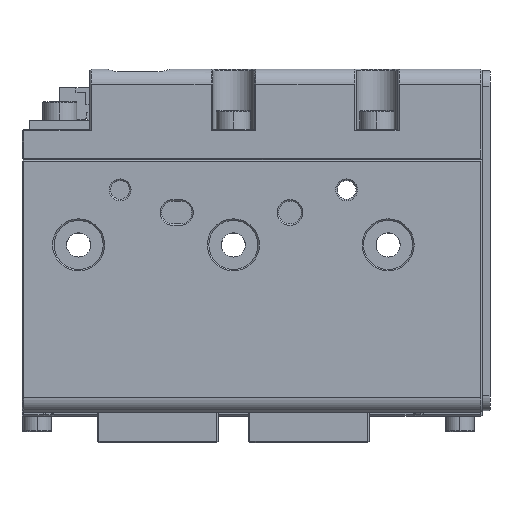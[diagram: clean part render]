
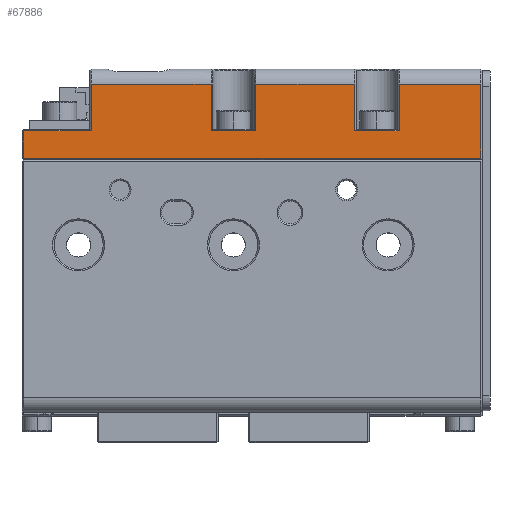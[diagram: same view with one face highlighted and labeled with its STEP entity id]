
A CAD part, top view. The second image highlights one B-rep face of the part: STEP entity #67886.
In plain terms, the highlighted planar face has unit normal (0, 0, 1).
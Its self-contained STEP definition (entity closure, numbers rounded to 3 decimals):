
#345 = DIRECTION ( 'NONE',  ( 0., 1., 0. ) ) ;
#422 = VERTEX_POINT ( 'NONE', #43654 ) ;
#647 = AXIS2_PLACEMENT_3D ( 'NONE', #50695, #76158, #21283 ) ;
#730 = VECTOR ( 'NONE', #3368, 1000. ) ;
#1652 = ORIENTED_EDGE ( 'NONE', *, *, #7619, .T. ) ;
#2977 = CARTESIAN_POINT ( 'NONE',  ( -18.765, 37.449, 10.7 ) ) ;
#3368 = DIRECTION ( 'NONE',  ( 0., -1., 0. ) ) ;
#5330 = VERTEX_POINT ( 'NONE', #21379 ) ;
#5468 = EDGE_CURVE ( 'NONE', #422, #69915, #32412, .T. ) ;
#5750 = ORIENTED_EDGE ( 'NONE', *, *, #59178, .T. ) ;
#5842 = VECTOR ( 'NONE', #57903, 1000. ) ;
#6537 = CARTESIAN_POINT ( 'NONE',  ( -80.565, 31.249, 10.7 ) ) ;
#7211 = LINE ( 'NONE', #61133, #72174 ) ;
#7411 = LINE ( 'NONE', #82773, #60253 ) ;
#7619 = EDGE_CURVE ( 'NONE', #71406, #422, #97352, .T. ) ;
#9812 = VECTOR ( 'NONE', #87075, 1000. ) ;
#9892 = ORIENTED_EDGE ( 'NONE', *, *, #12420, .T. ) ;
#10660 = CARTESIAN_POINT ( 'NONE',  ( -18.765, 37.449, 10.7 ) ) ;
#10884 = ORIENTED_EDGE ( 'NONE', *, *, #99506, .T. ) ;
#12033 = VECTOR ( 'NONE', #56329, 1000. ) ;
#12420 = EDGE_CURVE ( 'NONE', #78086, #5330, #97651, .T. ) ;
#12811 = ORIENTED_EDGE ( 'NONE', *, *, #90032, .T. ) ;
#13251 = EDGE_CURVE ( 'NONE', #25458, #50478, #7211, .T. ) ;
#16949 = ORIENTED_EDGE ( 'NONE', *, *, #13251, .T. ) ;
#16968 = CARTESIAN_POINT ( 'NONE',  ( -19.965, 37.449, 10.7 ) ) ;
#20401 = ORIENTED_EDGE ( 'NONE', *, *, #26374, .T. ) ;
#20670 = LINE ( 'NONE', #27287, #730 ) ;
#20845 = CARTESIAN_POINT ( 'NONE',  ( -49.815, 31.249, 10.7 ) ) ;
#20931 = EDGE_LOOP ( 'NONE', ( #39055, #1652, #89413, #20401, #16949, #5750, #10884, #56416, #12811, #9892, #22442, #23757, #23101, #34778 ) ) ;
#21283 = DIRECTION ( 'NONE',  ( -1., 0., 0. ) ) ;
#21379 = CARTESIAN_POINT ( 'NONE',  ( -30.815, 31.249, 10.7 ) ) ;
#22442 = ORIENTED_EDGE ( 'NONE', *, *, #30224, .T. ) ;
#23101 = ORIENTED_EDGE ( 'NONE', *, *, #32858, .T. ) ;
#23757 = ORIENTED_EDGE ( 'NONE', *, *, #75090, .T. ) ;
#24755 = CARTESIAN_POINT ( 'NONE',  ( -71.565, 31.249, 10.7 ) ) ;
#24927 = VECTOR ( 'NONE', #48945, 1000. ) ;
#25458 = VERTEX_POINT ( 'NONE', #24755 ) ;
#26154 = CARTESIAN_POINT ( 'NONE',  ( -36.715, 37.449, 10.7 ) ) ;
#26374 = EDGE_CURVE ( 'NONE', #69915, #25458, #20670, .T. ) ;
#26787 = DIRECTION ( 'NONE',  ( -1., 0., 0. ) ) ;
#27287 = CARTESIAN_POINT ( 'NONE',  ( -71.565, 27.449, 10.7 ) ) ;
#27599 = VECTOR ( 'NONE', #78967, 1000. ) ;
#29702 = DIRECTION ( 'NONE',  ( 0., -1., 0. ) ) ;
#30224 = EDGE_CURVE ( 'NONE', #5330, #52359, #34343, .T. ) ;
#30250 = CARTESIAN_POINT ( 'NONE',  ( -36.715, 31.249, 10.7 ) ) ;
#31991 = CARTESIAN_POINT ( 'NONE',  ( -80.565, 27.449, 10.7 ) ) ;
#32412 = LINE ( 'NONE', #96058, #51488 ) ;
#32449 = VECTOR ( 'NONE', #26787, 1000. ) ;
#32858 = EDGE_CURVE ( 'NONE', #64526, #52353, #72669, .T. ) ;
#33386 = LINE ( 'NONE', #64447, #47620 ) ;
#33759 = VERTEX_POINT ( 'NONE', #87458 ) ;
#34343 = LINE ( 'NONE', #48070, #32449 ) ;
#34778 = ORIENTED_EDGE ( 'NONE', *, *, #88000, .T. ) ;
#38469 = CARTESIAN_POINT ( 'NONE',  ( -80.565, 27.649, 10.7 ) ) ;
#39055 = ORIENTED_EDGE ( 'NONE', *, *, #57255, .T. ) ;
#42002 = CARTESIAN_POINT ( 'NONE',  ( -19.965, 37.449, 10.7 ) ) ;
#42616 = LINE ( 'NONE', #10660, #5842 ) ;
#42637 = CARTESIAN_POINT ( 'NONE',  ( -30.815, 27.449, 10.7 ) ) ;
#43654 = CARTESIAN_POINT ( 'NONE',  ( -55.715, 37.449, 10.7 ) ) ;
#44437 = DIRECTION ( 'NONE',  ( 0., -1., 0. ) ) ;
#46119 = CARTESIAN_POINT ( 'NONE',  ( -55.715, 31.249, 10.7 ) ) ;
#46486 = LINE ( 'NONE', #68410, #86776 ) ;
#47620 = VECTOR ( 'NONE', #345, 1000. ) ;
#48070 = CARTESIAN_POINT ( 'NONE',  ( -18.765, 31.249, 10.7 ) ) ;
#48355 = LINE ( 'NONE', #80452, #9812 ) ;
#48945 = DIRECTION ( 'NONE',  ( 0., 1., 0. ) ) ;
#50171 = VECTOR ( 'NONE', #51289, 1000. ) ;
#50478 = VERTEX_POINT ( 'NONE', #6537 ) ;
#50695 = CARTESIAN_POINT ( 'NONE',  ( -18.765, 27.449, 10.7 ) ) ;
#51289 = DIRECTION ( 'NONE',  ( 0., -1., 0. ) ) ;
#51488 = VECTOR ( 'NONE', #65015, 1000. ) ;
#51718 = DIRECTION ( 'NONE',  ( 1., 0., 0. ) ) ;
#52353 = VERTEX_POINT ( 'NONE', #61293 ) ;
#52359 = VERTEX_POINT ( 'NONE', #30250 ) ;
#54353 = EDGE_CURVE ( 'NONE', #33759, #86407, #93274, .T. ) ;
#56329 = DIRECTION ( 'NONE',  ( -1., 0., 0. ) ) ;
#56416 = ORIENTED_EDGE ( 'NONE', *, *, #54353, .T. ) ;
#56596 = CARTESIAN_POINT ( 'NONE',  ( -55.715, 27.449, 10.7 ) ) ;
#57255 = EDGE_CURVE ( 'NONE', #64310, #71406, #48355, .T. ) ;
#57903 = DIRECTION ( 'NONE',  ( -1., 0., 0. ) ) ;
#59178 = EDGE_CURVE ( 'NONE', #50478, #90207, #67865, .T. ) ;
#60253 = VECTOR ( 'NONE', #51718, 1000. ) ;
#61133 = CARTESIAN_POINT ( 'NONE',  ( -80.765, 31.249, 10.7 ) ) ;
#61293 = CARTESIAN_POINT ( 'NONE',  ( -49.815, 37.449, 10.7 ) ) ;
#64310 = VERTEX_POINT ( 'NONE', #20845 ) ;
#64447 = CARTESIAN_POINT ( 'NONE',  ( -36.715, 27.449, 10.7 ) ) ;
#64526 = VERTEX_POINT ( 'NONE', #26154 ) ;
#65015 = DIRECTION ( 'NONE',  ( -1., 0., 0. ) ) ;
#67865 = LINE ( 'NONE', #31991, #72007 ) ;
#67886 = ADVANCED_FACE ( 'NONE', ( #97087 ), #81792, .F. ) ;
#68410 = CARTESIAN_POINT ( 'NONE',  ( -49.815, 27.449, 10.7 ) ) ;
#68888 = CARTESIAN_POINT ( 'NONE',  ( -71.565, 37.449, 10.7 ) ) ;
#69915 = VERTEX_POINT ( 'NONE', #68888 ) ;
#71406 = VERTEX_POINT ( 'NONE', #46119 ) ;
#72007 = VECTOR ( 'NONE', #44437, 1000. ) ;
#72174 = VECTOR ( 'NONE', #77416, 1000. ) ;
#72669 = LINE ( 'NONE', #2977, #12033 ) ;
#74367 = CARTESIAN_POINT ( 'NONE',  ( -30.815, 37.449, 10.7 ) ) ;
#75090 = EDGE_CURVE ( 'NONE', #52359, #64526, #33386, .T. ) ;
#76158 = DIRECTION ( 'NONE',  ( 0., 0., -1. ) ) ;
#77416 = DIRECTION ( 'NONE',  ( -1., 0., 0. ) ) ;
#78086 = VERTEX_POINT ( 'NONE', #74367 ) ;
#78967 = DIRECTION ( 'NONE',  ( 0., 1., 0. ) ) ;
#80452 = CARTESIAN_POINT ( 'NONE',  ( -18.765, 31.249, 10.7 ) ) ;
#81792 = PLANE ( 'NONE',  #647 ) ;
#82773 = CARTESIAN_POINT ( 'NONE',  ( -18.765, 27.649, 10.7 ) ) ;
#86407 = VERTEX_POINT ( 'NONE', #42002 ) ;
#86776 = VECTOR ( 'NONE', #29702, 1000. ) ;
#87075 = DIRECTION ( 'NONE',  ( -1., 0., 0. ) ) ;
#87458 = CARTESIAN_POINT ( 'NONE',  ( -19.965, 27.649, 10.7 ) ) ;
#88000 = EDGE_CURVE ( 'NONE', #52353, #64310, #46486, .T. ) ;
#89413 = ORIENTED_EDGE ( 'NONE', *, *, #5468, .T. ) ;
#90032 = EDGE_CURVE ( 'NONE', #86407, #78086, #42616, .T. ) ;
#90207 = VERTEX_POINT ( 'NONE', #38469 ) ;
#93274 = LINE ( 'NONE', #16968, #27599 ) ;
#96058 = CARTESIAN_POINT ( 'NONE',  ( -18.765, 37.449, 10.7 ) ) ;
#97087 = FACE_OUTER_BOUND ( 'NONE', #20931, .T. ) ;
#97352 = LINE ( 'NONE', #56596, #24927 ) ;
#97651 = LINE ( 'NONE', #42637, #50171 ) ;
#99506 = EDGE_CURVE ( 'NONE', #90207, #33759, #7411, .T. ) ;
